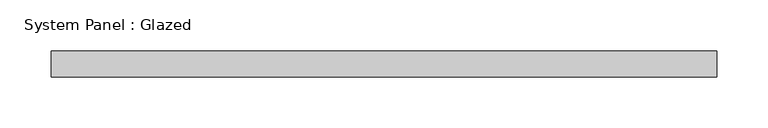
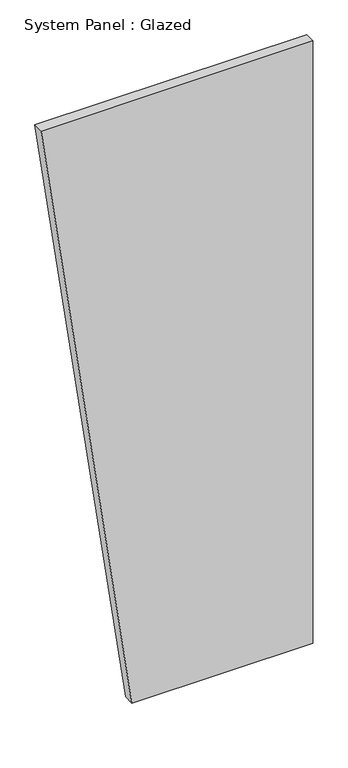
"""IFC4 building model written with IfcOpenShell, lengths in millimetres: plate geometry, System Panel : Glazed."""

from ifc_helpers import new_model, si_unit, frame, origin, place, context, project, spatial, polyline, outline, extrude, source, transform, mapped, element, save


def system_panel_glazed_4b2258e6(model_context):
    return source(origin(), model_context, "Body", "SweptSolid", [
        extrude(outline(polyline([(0.0, -108.5226777), (0.0, 325.5680328), (1524.0, 325.5680328), (1524.0, -325.5680328), (0.0, -108.5226777)])), frame((0.0, 19.05, 0.0), z_axis=(0.0, 1.0, 0.0), x_axis=(0.0, 0.0, 1.0)), (0.0, 0.0, 1.0), 25.4),
    ])


if __name__ == "__main__":
    model = new_model("IFC4")
    model_context = context("Model", 3, world=origin())
    ifc_project = project(units=[si_unit("LENGTHUNIT", "METRE", prefix="MILLI")], contexts=[model_context])
    site = spatial("IfcSite", under=ifc_project)
    building = spatial("IfcBuilding", under=site)
    placement = place(None, origin())
    system_panel_glazed_shape = system_panel_glazed_4b2258e6(model_context)
    element("IfcPlate", 1, ObjectType="System Panel : Glazed", at=placement, inside=building, context=model_context, shape_type="MappedRepresentation", body=[
        mapped(system_panel_glazed_shape, transform((0.0, 0.0, 0.0), x_axis=(1.0, 0.0, 0.0), y_axis=(0.0, 1.0, 0.0), z_axis=(0.0, 0.0, 1.0))),
    ])
    save(model, "model.ifc")
